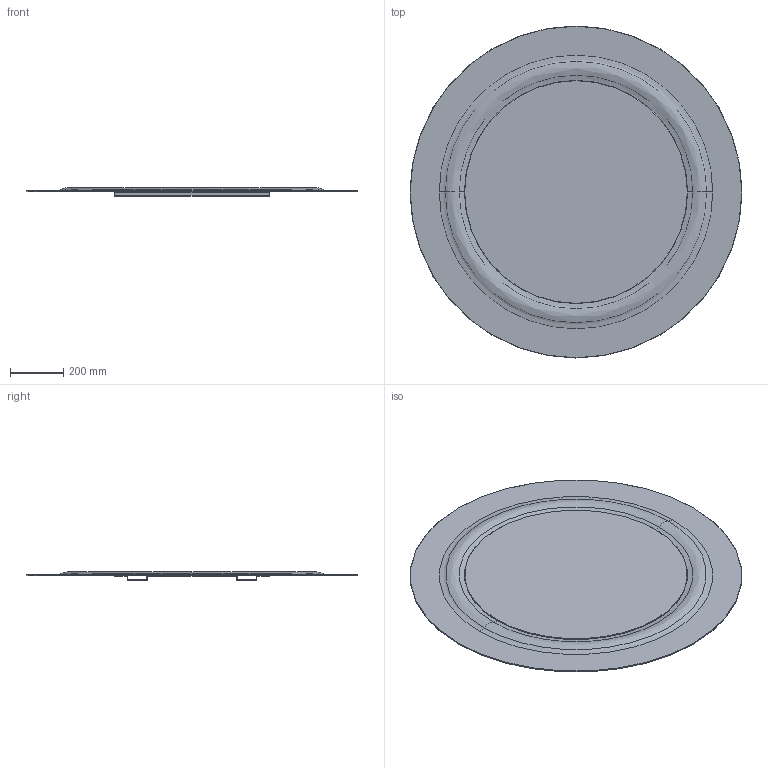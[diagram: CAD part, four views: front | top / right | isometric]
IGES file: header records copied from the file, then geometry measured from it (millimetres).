
Start section: SolidWorks IGES file using analytic representation for surfaces
Global section: file name: Y:\eforma\TECNICO\SOLIDWORKS\E-FORMA\4-SPECCHI\EMILY\08 modelli 3D web\EMI01_Emily_d.125.IGS; native system: SolidWorks 2022; preprocessor: SolidWorks 2022; author: eforma.tech; date: 240802.110008; units: millimetre
Bounding box: 1250 x 1250 x 31.8 mm (x, y, z)
Volume: 7946464.9 mm3; surface area: 6795583.5 mm2
Topology: 4 solids, 4 shells, 178 faces, 402 edges, 228 vertices
Faces by surface type: plane 104, revolution 74
